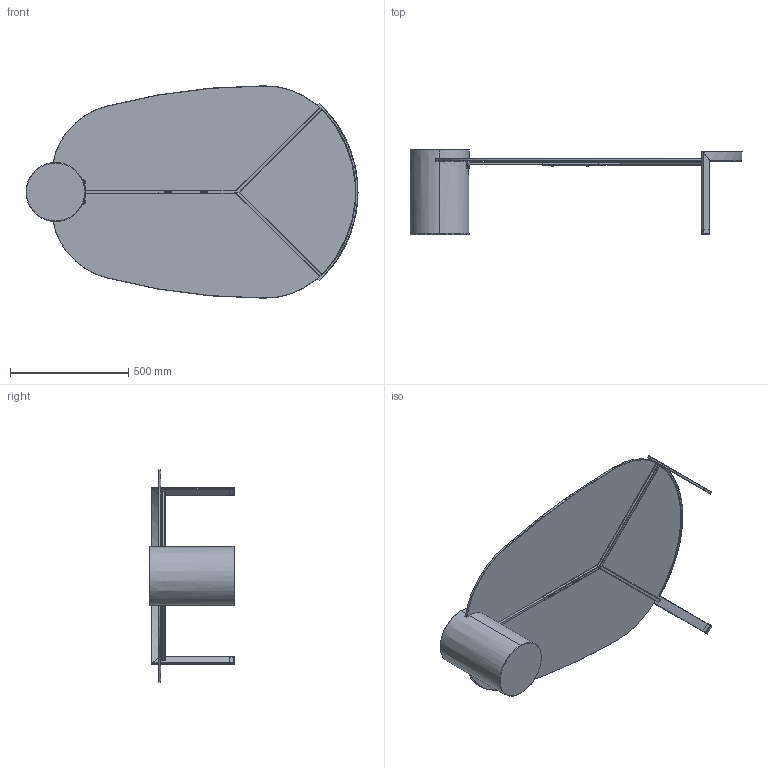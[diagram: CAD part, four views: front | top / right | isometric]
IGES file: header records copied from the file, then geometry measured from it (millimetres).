
Start section: SolidWorks IGES file using analytic representation for surfaces
Global section: file name: Y:\eforma\TECNICO\SOLIDWORKS\E-FORMA\2-TAVOLINI\PEO-PERRY COFFEE TABLE\02 parts\PE83G_Peo Low_130x90_Glass.IGS; native system: SolidWorks 2022; preprocessor: SolidWorks 2022; author: eforma.tech; date: 240806.135320; units: millimetre
Bounding box: 1406.52 x 360 x 900 mm (x, y, z)
Volume: 27330604.1 mm3; surface area: 2866123.1 mm2
Topology: 27 solids, 27 shells, 464 faces, 1105 edges, 661 vertices
Faces by surface type: revolution 278, plane 182, bspline 4
